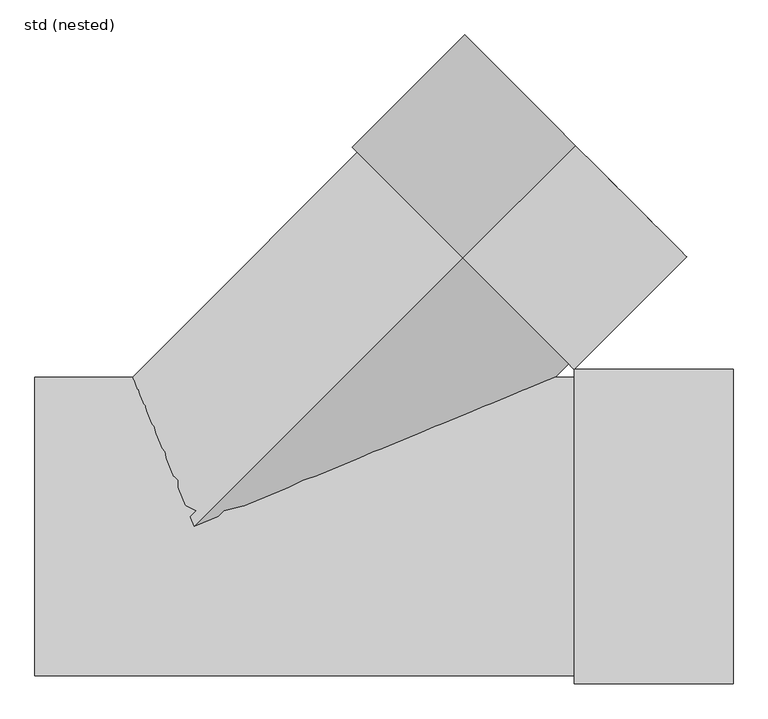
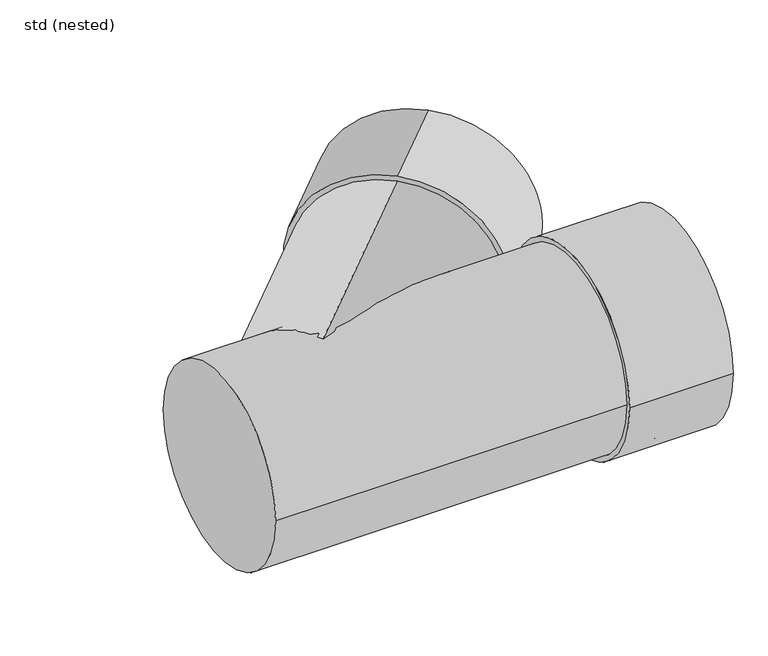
"""IFC4 building model written with IfcOpenShell, lengths in millimetres: pipe fitting geometry, NLRS_52_PIF_WPB_Ultra Kyma T-stuk 2MV SH_Dyka : std (nested)."""

from ifc_helpers import new_model, si_unit, point, frame, origin, origin_2d, place, context, project, spatial, polyline, circle_curve, ellipse_curve, trimmed, segment, composite_curve, outline, extrude, source, transform, mapped, element, save
from ifc_brep_helpers import plane_surface, cylinder_surface, revolved_surface, advanced_brep


def std_nested_81d986b2(model_context):
    return source(origin(), model_context, "Body", "SolidModel", [
        advanced_brep(
        [(1093.8949692, 453.0, 0.0), (-187.5947927, 453.0, 0.0), (0.0, 0.0, -453.0), (0.0, 0.0, 453.0), (964.6533882, 964.3338844, -453.0), (964.6533882, 964.3338844, 453.0)],
        [
            (0, 1),
            (1, 2, ellipse_curve(frame((0.0, 0.0, 0.0), z_axis=(-0.9239112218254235, -0.38260691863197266, 0.0), x_axis=(0.3826069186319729, -0.9239112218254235, 0.0)), 490.3068491, 453.0)),
            (2, 0, ellipse_curve(frame((0.0, 0.0, 0.0), z_axis=(0.38260691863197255, -0.9239112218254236, 0.0), x_axis=(0.9239112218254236, 0.3826069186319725, 0.0)), 1183.9827717, 453.0)),
            (0, 3, ellipse_curve(frame((0.0, 0.0, 0.0), z_axis=(0.38260691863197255, -0.9239112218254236, 0.0), x_axis=(0.9239112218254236, 0.3826069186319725, 0.0)), 1183.9827717, 453.0)),
            (3, 1, ellipse_curve(frame((0.0, 0.0, 0.0), z_axis=(-0.9239112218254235, -0.38260691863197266, 0.0), x_axis=(0.3826069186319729, -0.9239112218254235, 0.0)), 490.3068491, 453.0)),
            (4, 5, circle_curve(frame((964.6533882, 964.3338844, 0.0), z_axis=(0.7072238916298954, 0.7069896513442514, 0.0), x_axis=(-0.7069896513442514, 0.7072238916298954, 0.0)), 453.0)),
            (5, 4, circle_curve(frame((964.6533882, 964.3338844, 0.0), z_axis=(0.7072238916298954, 0.7069896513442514, 0.0), x_axis=(0.7069896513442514, -0.7072238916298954, 0.0)), 453.0)),
            (4, 2),
            (3, 5),
        ],
        [
            revolved_surface(polyline([(1093.8949692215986, 453.0, 0.0), (-1093.8949692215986, 453.0, 0.0)]), (-484.0, 0.0, 0.0), (1.0, 0.0, 0.0)),
            plane_surface(frame((964.6533882, 964.3338844, 0.0), z_axis=(0.7072238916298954, 0.7069896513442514, 0.0), x_axis=(-0.7069896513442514, 0.7072238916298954, 0.0))),
            cylinder_surface(frame((964.6533882, 964.3338844, 0.0), z_axis=(-0.7072238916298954, -0.7069896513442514, 0.0), x_axis=(-0.7069896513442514, 0.7072238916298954, 0.0)), 453.0),
            cylinder_surface(frame((964.6533882, 964.3338844, 0.0), z_axis=(-0.7072238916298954, -0.7069896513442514, 0.0), x_axis=(0.7069896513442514, -0.7072238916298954, 0.0)), 453.0),
        ],
        [
            (0, [[1, 2, 3]]),
            (0, [[-1, 4, 5]]),
            (1, [[6, 7]]),
            (2, [[-6, 8, -2, -5, 9]]),
            (3, [[-7, -9, -4, -3, -8]]),
        ],
    ),
        extrude(outline(composite_curve([segment(trimmed(circle_curve(origin_2d(), 477.0), [point((-477.0, 0.0))], [point((477.0, 0.0))], False, "CARTESIAN"), True, "CONTINUOUS"), segment(trimmed(circle_curve(origin_2d(), 477.0), [point((477.0, 0.0))], [point((-477.0, 0.0))], False, "CARTESIAN"), True, "CONTINUOUS")], self_intersect=False), holes=[composite_curve([segment(trimmed(circle_curve(origin_2d(), 453.0), [point((453.0, 0.0))], [point((-453.0, 0.0))], True, "CARTESIAN"), True, "CONTINUOUS"), segment(trimmed(circle_curve(origin_2d(), 453.0), [point((-453.0, 0.0))], [point((453.0, 0.0))], True, "CARTESIAN"), True, "CONTINUOUS")], self_intersect=False)]), frame((814.4247967, 814.1550503, 0.0), z_axis=(0.7072238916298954, 0.7069896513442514, 0.0), x_axis=(0.0, 0.0, 1.0)), (0.0, 0.0, 1.0), 482.4201307),
        extrude(outline(composite_curve([segment(trimmed(circle_curve(origin_2d(), 477.0), [point((-477.0, 0.0))], [point((477.0, 0.0))], False, "CARTESIAN"), True, "CONTINUOUS"), segment(trimmed(circle_curve(origin_2d(), 477.0), [point((477.0, 0.0))], [point((-477.0, 0.0))], False, "CARTESIAN"), True, "CONTINUOUS")], self_intersect=False), holes=[composite_curve([segment(trimmed(circle_curve(origin_2d(), 453.0), [point((453.0, 0.0))], [point((-453.0, 0.0))], True, "CARTESIAN"), True, "CONTINUOUS"), segment(trimmed(circle_curve(origin_2d(), 453.0), [point((-453.0, 0.0))], [point((453.0, 0.0))], True, "CARTESIAN"), True, "CONTINUOUS")], self_intersect=False)]), frame((1151.5798693, 0.0, 0.0), z_axis=(1.0, 0.0, 0.0), x_axis=(0.0, 1.0, 0.0)), (0.0, 0.0, 1.0), 482.4201307),
        extrude(outline(composite_curve([segment(trimmed(circle_curve(origin_2d(), 453.0), [point((-453.0, 0.0))], [point((453.0, 0.0))], False, "CARTESIAN"), True, "CONTINUOUS"), segment(trimmed(circle_curve(origin_2d(), 453.0), [point((453.0, 0.0))], [point((-453.0, 0.0))], False, "CARTESIAN"), True, "CONTINUOUS")], self_intersect=False)), frame((-484.0, 0.0, 0.0), z_axis=(1.0, 0.0, 0.0), x_axis=(0.0, 1.0, 0.0)), (0.0, 0.0, 1.0), 1848.0),
    ])


if __name__ == "__main__":
    model = new_model("IFC4")
    model_context = context("Model", 3, world=origin())
    ifc_project = project(units=[si_unit("LENGTHUNIT", "METRE", prefix="MILLI")], contexts=[model_context])
    site = spatial("IfcSite", under=ifc_project)
    building = spatial("IfcBuilding", under=site)
    placement = place(None, origin())
    std_nested_shape = std_nested_81d986b2(model_context)
    element("IfcPipeFitting", 1, ObjectType="NLRS_52_PIF_WPB_Ultra Kyma T-stuk 2MV SH_Dyka : std (nested)", at=placement, inside=building, context=model_context, shape_type="MappedRepresentation", body=[
        mapped(std_nested_shape, transform((0.0, 0.0, 0.0), x_axis=(1.0, 0.0, 0.0), y_axis=(0.0, 1.0, 0.0), z_axis=(0.0, 0.0, 1.0))),
    ])
    save(model, "model.ifc")
